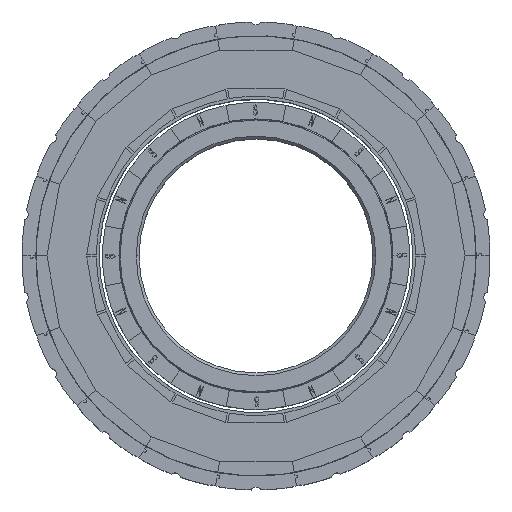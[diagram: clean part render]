
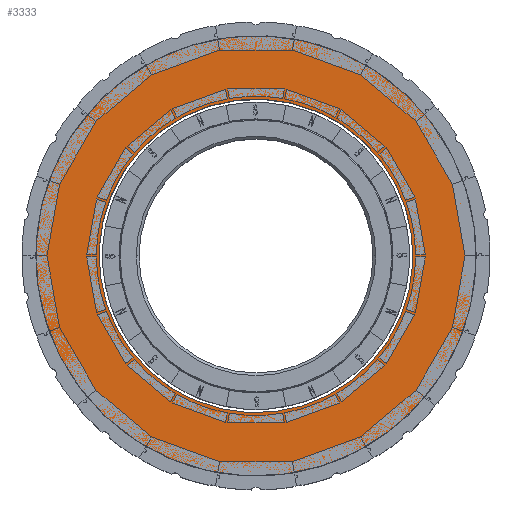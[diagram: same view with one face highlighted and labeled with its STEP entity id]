
A CAD part, top view. The second image highlights one B-rep face of the part: STEP entity #3333.
In plain terms, the highlighted planar face has unit normal (0, 0, 1).
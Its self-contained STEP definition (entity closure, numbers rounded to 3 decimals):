
#2059 = DIRECTION ( 'NONE',  ( 1., 0., 0. ) ) ;
#2092 = PLANE ( 'NONE',  #15048 ) ;
#3333 = ADVANCED_FACE ( 'NONE', ( #37423, #7867 ), #2092, .T. ) ;
#5298 = DIRECTION ( 'NONE',  ( 1., 0., 0. ) ) ;
#5735 = DIRECTION ( 'NONE',  ( 1., 0., 0. ) ) ;
#5828 = AXIS2_PLACEMENT_3D ( 'NONE', #31464, #18697, #5298 ) ;
#6901 = DIRECTION ( 'NONE',  ( 1., 0., 0. ) ) ;
#7867 = FACE_OUTER_BOUND ( 'NONE', #11381, .T. ) ;
#8123 = CARTESIAN_POINT ( 'NONE',  ( -40., 0., 0. ) ) ;
#8273 = DIRECTION ( 'NONE',  ( 0., 0., 1. ) ) ;
#9852 = EDGE_LOOP ( 'NONE', ( #35963, #41780 ) ) ;
#11381 = EDGE_LOOP ( 'NONE', ( #21041, #41122 ) ) ;
#12665 = DIRECTION ( 'NONE',  ( 0., 0., 1. ) ) ;
#13143 = AXIS2_PLACEMENT_3D ( 'NONE', #15261, #31219, #2059 ) ;
#15048 = AXIS2_PLACEMENT_3D ( 'NONE', #15078, #8273, #41036 ) ;
#15078 = CARTESIAN_POINT ( 'NONE',  ( 0., 0., 0. ) ) ;
#15261 = CARTESIAN_POINT ( 'NONE',  ( 0., 0., 0. ) ) ;
#15797 = CARTESIAN_POINT ( 'NONE',  ( -28.5, 0., 0. ) ) ;
#17715 = VERTEX_POINT ( 'NONE', #15797 ) ;
#18041 = CIRCLE ( 'NONE', #5828, 28.5 ) ;
#18508 = CARTESIAN_POINT ( 'NONE',  ( 0., 0., 0. ) ) ;
#18697 = DIRECTION ( 'NONE',  ( 0., 0., 1. ) ) ;
#20889 = AXIS2_PLACEMENT_3D ( 'NONE', #18508, #27872, #5735 ) ;
#21041 = ORIENTED_EDGE ( 'NONE', *, *, #30571, .T. ) ;
#21696 = VERTEX_POINT ( 'NONE', #25687 ) ;
#23259 = VERTEX_POINT ( 'NONE', #8123 ) ;
#25308 = CIRCLE ( 'NONE', #39576, 40. ) ;
#25687 = CARTESIAN_POINT ( 'NONE',  ( 40., 0., 0. ) ) ;
#27872 = DIRECTION ( 'NONE',  ( 0., 0., 1. ) ) ;
#28531 = VERTEX_POINT ( 'NONE', #36147 ) ;
#30571 = EDGE_CURVE ( 'NONE', #21696, #23259, #25308, .T. ) ;
#31219 = DIRECTION ( 'NONE',  ( 0., 0., 1. ) ) ;
#31464 = CARTESIAN_POINT ( 'NONE',  ( 0., 0., 0. ) ) ;
#31468 = CIRCLE ( 'NONE', #13143, 40. ) ;
#31568 = EDGE_CURVE ( 'NONE', #23259, #21696, #31468, .T. ) ;
#34457 = CIRCLE ( 'NONE', #20889, 28.5 ) ;
#35963 = ORIENTED_EDGE ( 'NONE', *, *, #40037, .F. ) ;
#36050 = CARTESIAN_POINT ( 'NONE',  ( 0., 0., 0. ) ) ;
#36069 = EDGE_CURVE ( 'NONE', #17715, #28531, #34457, .T. ) ;
#36147 = CARTESIAN_POINT ( 'NONE',  ( 28.5, 0., 0. ) ) ;
#37423 = FACE_BOUND ( 'NONE', #9852, .T. ) ;
#39576 = AXIS2_PLACEMENT_3D ( 'NONE', #36050, #12665, #6901 ) ;
#40037 = EDGE_CURVE ( 'NONE', #28531, #17715, #18041, .T. ) ;
#41036 = DIRECTION ( 'NONE',  ( 1., 0., 0. ) ) ;
#41122 = ORIENTED_EDGE ( 'NONE', *, *, #31568, .T. ) ;
#41780 = ORIENTED_EDGE ( 'NONE', *, *, #36069, .F. ) ;
